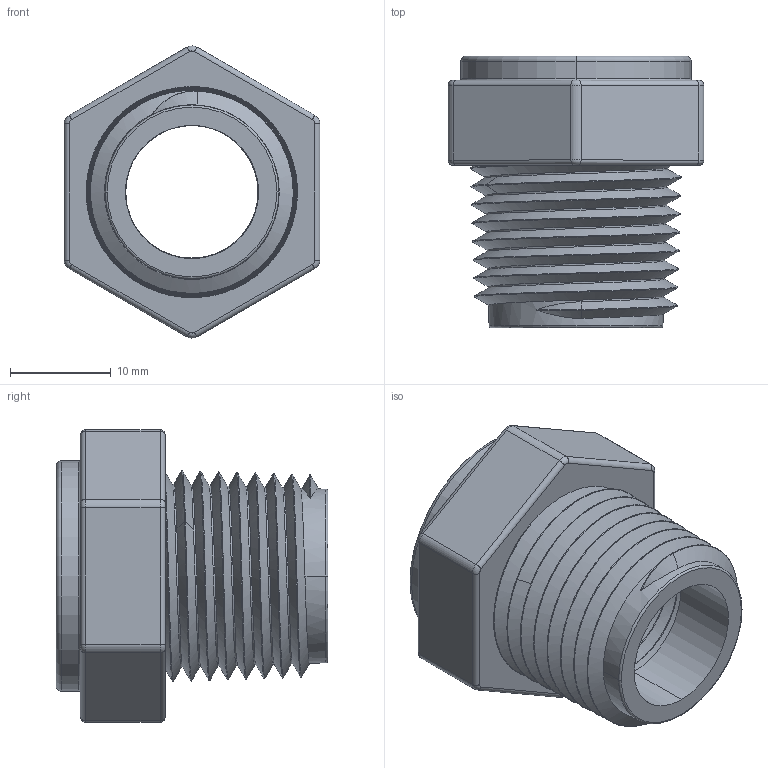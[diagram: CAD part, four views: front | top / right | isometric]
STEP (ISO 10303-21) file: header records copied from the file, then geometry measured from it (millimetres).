
FILE_DESCRIPTION(/* description */ ('Alibre Inc.'),/* implementation_level */ '2;1');
FILE_NAME(/* name */ 'export0',/* time_stamp */ '2019-10-17T10:51:54-04:00',/* author */ (''),/* organization */ (''),/* preprocessor_version */ 'ST-DEVELOPER v17',/* originating_system */ 'Alibre',/* authorisation */ '');
FILE_SCHEMA (('CONFIG_CONTROL_DESIGN'));
Length unit declared in the file: inch
Products named in the file (1): 200-62268-1000C
Bounding box: 25.33 x 26.9 x 28.94 mm (x, y, z)
Volume: 5682.7 mm3; surface area: 5188.8 mm2
Topology: 1 solids, 1 shells, 126 faces, 316 edges, 193 vertices
Faces by surface type: cone 49, bspline 26, cylinder 22, torus 18, plane 11
Entity records: 34391 total; most frequent: CARTESIAN_POINT 31922, ORIENTED_EDGE 624, DIRECTION 313, EDGE_CURVE 312, VERTEX_POINT 192, B_SPLINE_CURVE_WITH_KNOTS 151, EDGE_LOOP 130, FACE_BOUND 130
